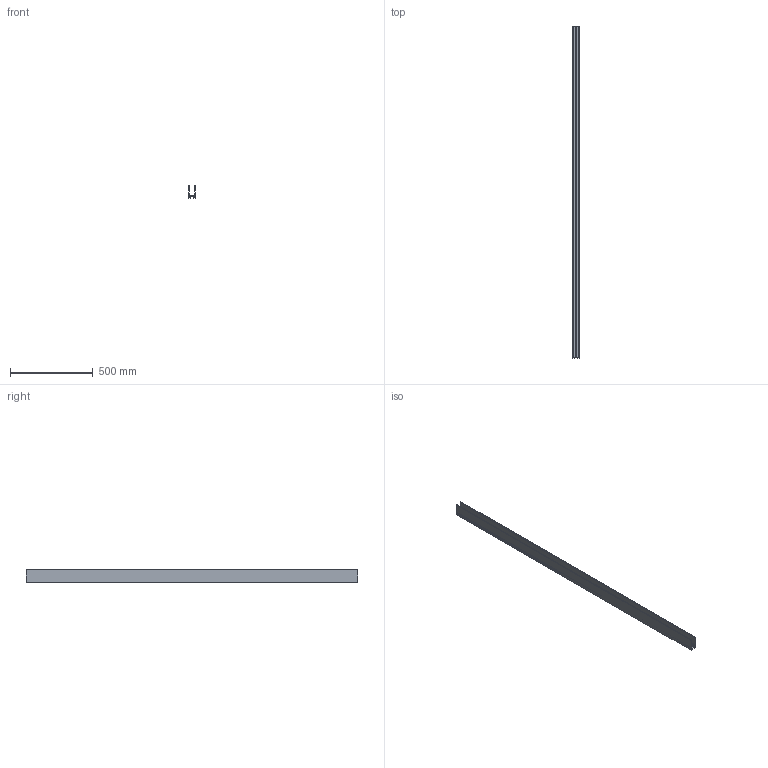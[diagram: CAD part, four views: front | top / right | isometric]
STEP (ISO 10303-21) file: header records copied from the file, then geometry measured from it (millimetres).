
FILE_DESCRIPTION(/* description */ (''),/* implementation_level */ '2;1');
FILE_NAME(/* name */ 'C:\Users\FrancoSartori\Documents\FARO\01_En Proceso\0000_2022\000_PRO\00_NESO\01_RFA_3D_Trabajo\TRACK_SURFACE_2M.stp',/* time_stamp */ '2022-07-19T14:23:37+02:00',/* author */ ('FrancoSartori'),/* organization */ (''),/* preprocessor_version */ 'ST-DEVELOPER v19',/* originating_system */ 'AutoCAD Mechanical',/* authorisation */ '');
FILE_SCHEMA (('AUTOMOTIVE_DESIGN { 1 0 10303 214 3 1 1 }'));
Length unit declared in the file: millimetre
Products named in the file (2): Product; Track pendant_surface - LAMP-510853-Export
Assembly tree (1 placements, depth 2):
  Product
    Track pendant_surface - LAMP-510853-Export
Bounding box: 39.4 x 2000 x 76 mm (x, y, z)
Volume: 1116353.7 mm3; surface area: 1061340.2 mm2
Topology: 7 solids, 7 shells, 103 faces, 267 edges, 178 vertices
Faces by surface type: plane 101, cylinder 2
Entity records: 3136 total; most frequent: CARTESIAN_POINT 551, ORIENTED_EDGE 534, DIRECTION 483, EDGE_CURVE 267, LINE 263, VECTOR 263, VERTEX_POINT 178, AXIS2_PLACEMENT_3D 110
